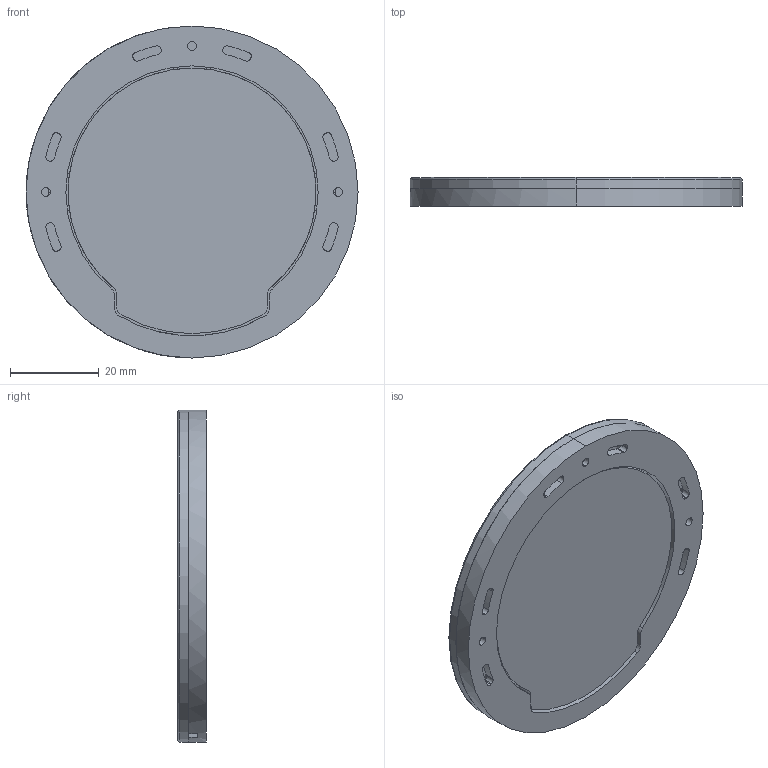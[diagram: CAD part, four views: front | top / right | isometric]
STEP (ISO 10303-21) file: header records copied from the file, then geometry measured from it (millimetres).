
FILE_DESCRIPTION (( 'STEP AP203' ), '1' );
FILE_NAME ('Apex Triotone.STEP', '2022-06-15T13:09:08', ( '' ), ( '' ), 'SwSTEP 2.0', 'SolidWorks 2020', '' );
FILE_SCHEMA (( 'CONFIG_CONTROL_DESIGN' ));
Length unit declared in the file: millimetre
Products named in the file (4): Apex Triotone; New Round Light - Bezel; New Round Light - Body; New Round Light - Collar
Assembly tree (3 placements, depth 2):
  Apex Triotone
    New Round Light - Body
    New Round Light - Collar
    New Round Light - Bezel
Bounding box: 75 x 6.5 x 75 mm (x, y, z)
Volume: 25615.7 mm3; surface area: 22285.6 mm2
Topology: 3 solids, 3 shells, 241 faces, 615 edges, 392 vertices
Faces by surface type: cylinder 97, plane 90, cone 52, torus 2
Entity records: 7795 total; most frequent: DIRECTION 1381, CARTESIAN_POINT 1254, ORIENTED_EDGE 1230, EDGE_CURVE 615, AXIS2_PLACEMENT_3D 519, VERTEX_POINT 392, VECTOR 343, LINE 343
